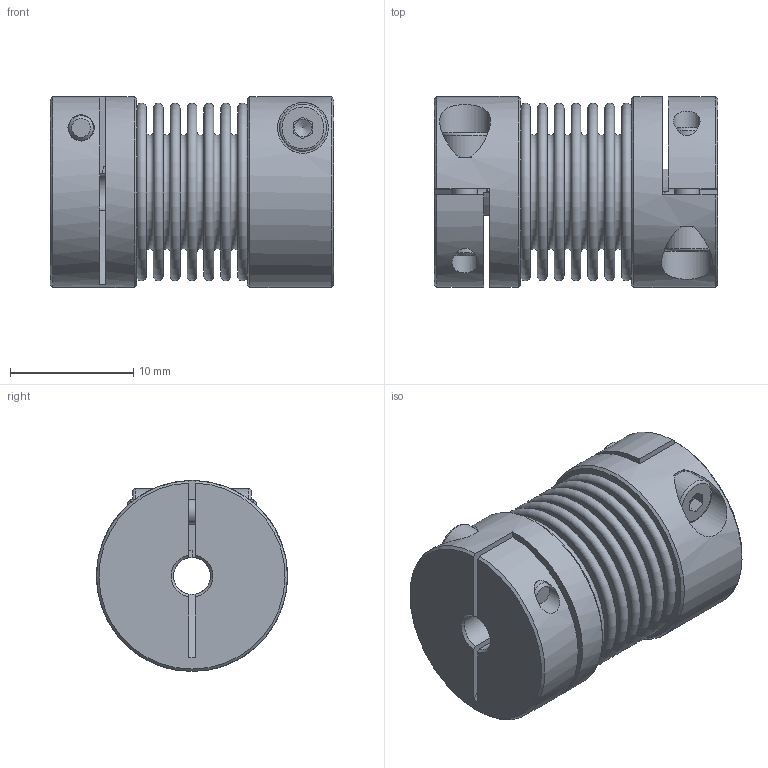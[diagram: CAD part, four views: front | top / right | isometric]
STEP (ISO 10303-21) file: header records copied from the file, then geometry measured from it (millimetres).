
FILE_DESCRIPTION(/* description */ ('STEP AP203'),/* implementation_level */ '2;1');
FILE_NAME(/* name */ 'KB2-10-23-3-3',/* time_stamp */ '2022-09-12T12:41:23+02:00',/* author */ ('License CC BY-ND 4.0'),/* organization */ ('CADENAS'),/* preprocessor_version */ 'ST-DEVELOPER v18.102',/* originating_system */ 'PARTsolutions',/* authorisation */ ' ');
FILE_SCHEMA (('CONFIG_CONTROL_DESIGN'));
Length unit declared in the file: millimetre
Products named in the file (1): KB2-10-23-3-3
Bounding box: 23 x 15.5 x 15.5 mm (x, y, z)
Volume: 2581.5 mm3; surface area: 5001.5 mm2
Topology: 1 solids, 1 shells, 133 faces, 283 edges, 184 vertices
Faces by surface type: plane 64, torus 28, cylinder 22, cone 19
Full cylindrical faces by diameter (mm): 2 x2, 2.126 x4, 3 x2, 3.8 x2, 9.76 x2, 15.5 x2
Entity records: 3352 total; most frequent: CARTESIAN_POINT 640, DIRECTION 582, ORIENTED_EDGE 434, AXIS2_PLACEMENT_3D 251, FACE_BOUND 228, EDGE_LOOP 226, EDGE_CURVE 217, VERTEX_POINT 175
